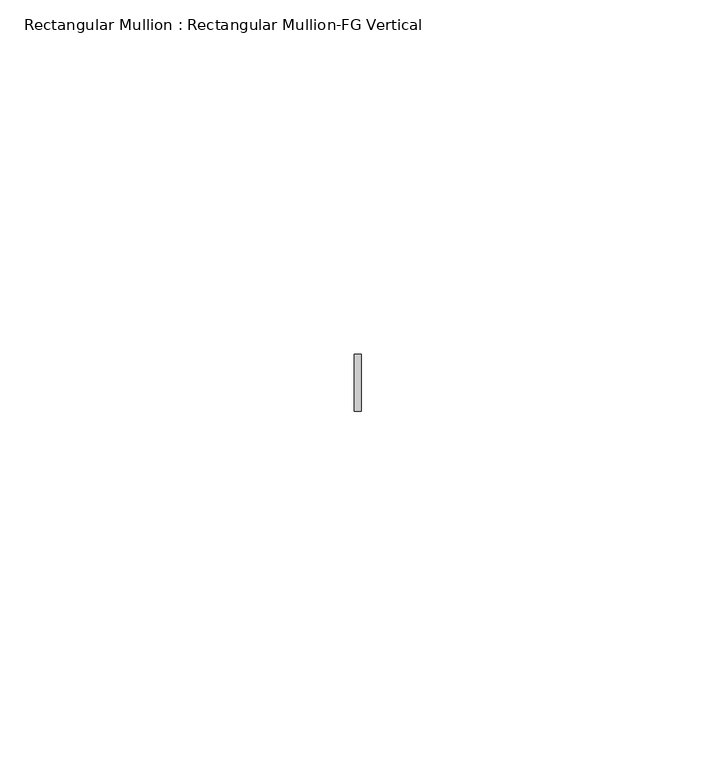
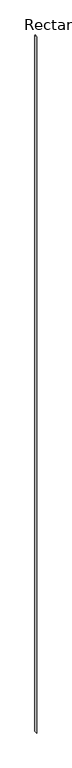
"""IFC4 building model written with IfcOpenShell, lengths in millimetres: member geometry, Rectangular Mullion : Rectangular Mullion-FG Vertical."""

from ifc_helpers import new_model, si_unit, frame, origin, place, context, project, spatial, polyline, outline, extrude, source, transform, mapped, element, save


def rectangular_mullion_rectangular_mullion_fg_vertical_bcc550d2(model_context):
    return source(origin(), model_context, "Body", "SweptSolid", [
        extrude(outline(polyline([(-0.5, -11.0), (-0.5, -3.0), (0.5, -3.0), (0.5, -11.0), (-0.5, -11.0)])), frame((0.0, 0.0, -2010.000045), z_axis=(0.0, 0.0, 1.0), x_axis=(1.0, 0.0, 0.0)), (0.0, 0.0, 1.0), 2010.000045),
    ])


if __name__ == "__main__":
    model = new_model("IFC4")
    model_context = context("Model", 3, world=origin())
    ifc_project = project(units=[si_unit("LENGTHUNIT", "METRE", prefix="MILLI")], contexts=[model_context])
    site = spatial("IfcSite", under=ifc_project)
    building = spatial("IfcBuilding", under=site)
    placement = place(None, origin())
    rectangular_mullion_rectangular_mullion_fg_vertical_shape = rectangular_mullion_rectangular_mullion_fg_vertical_bcc550d2(model_context)
    element("IfcMember", 1, ObjectType="Rectangular Mullion : Rectangular Mullion-FG Vertical", at=placement, inside=building, context=model_context, shape_type="MappedRepresentation", body=[
        mapped(rectangular_mullion_rectangular_mullion_fg_vertical_shape, transform((0.0, 0.0, 0.0), x_axis=(1.0, 0.0, 0.0), y_axis=(0.0, 1.0, 0.0), z_axis=(0.0, 0.0, 1.0))),
    ])
    save(model, "model.ifc")
